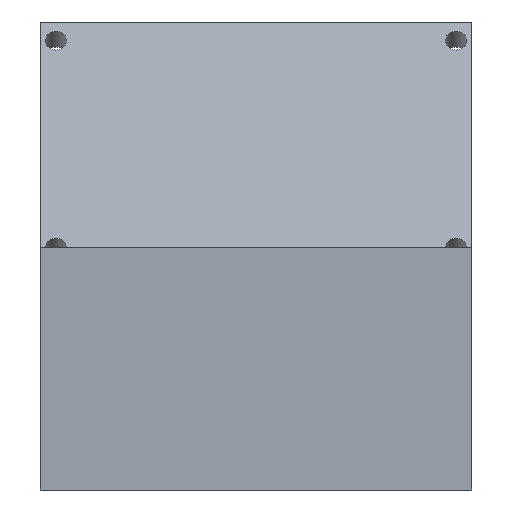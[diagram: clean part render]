
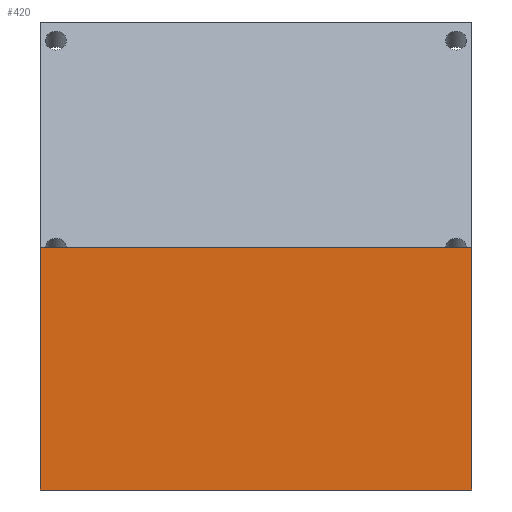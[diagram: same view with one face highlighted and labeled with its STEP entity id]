
A CAD part, left-side view. The second image highlights one B-rep face of the part: STEP entity #420.
In plain terms, the highlighted planar face has unit normal (-1, 0, 0).
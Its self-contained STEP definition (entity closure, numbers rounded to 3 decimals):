
#74=FACE_OUTER_BOUND('',#110,.T.);
#110=EDGE_LOOP('',(#381,#382,#383,#384));
#122=LINE('',#615,#160);
#133=LINE('',#659,#171);
#140=LINE('',#676,#178);
#148=LINE('',#700,#186);
#160=VECTOR('',#492,10.);
#171=VECTOR('',#537,10.);
#178=VECTOR('',#556,10.);
#186=VECTOR('',#586,10.);
#196=VERTEX_POINT('',#612);
#197=VERTEX_POINT('',#614);
#213=VERTEX_POINT('',#658);
#217=VERTEX_POINT('',#675);
#234=EDGE_CURVE('',#196,#197,#122,.T.);
#255=EDGE_CURVE('',#197,#213,#133,.T.);
#264=EDGE_CURVE('',#217,#213,#140,.T.);
#276=EDGE_CURVE('',#196,#217,#148,.T.);
#381=ORIENTED_EDGE('',*,*,#276,.T.);
#382=ORIENTED_EDGE('',*,*,#264,.T.);
#383=ORIENTED_EDGE('',*,*,#255,.F.);
#384=ORIENTED_EDGE('',*,*,#234,.F.);
#398=PLANE('',#472);
#420=ADVANCED_FACE('',(#74),#398,.T.);
#472=AXIS2_PLACEMENT_3D('',#701,#587,#588);
#492=DIRECTION('',(0.,0.,-1.));
#537=DIRECTION('',(0.,1.,0.));
#556=DIRECTION('',(0.,0.,-1.));
#586=DIRECTION('',(0.,1.,0.));
#587=DIRECTION('center_axis',(-1.,0.,0.));
#588=DIRECTION('ref_axis',(0.,0.,1.));
#612=CARTESIAN_POINT('',(0.,-1.,15.));
#614=CARTESIAN_POINT('',(0.,-1.,-31.));
#615=CARTESIAN_POINT('',(0.,-1.,0.));
#658=CARTESIAN_POINT('',(0.,81.,-31.));
#659=CARTESIAN_POINT('',(0.,0.,-31.));
#675=CARTESIAN_POINT('',(0.,81.,15.));
#676=CARTESIAN_POINT('',(0.,81.,0.));
#700=CARTESIAN_POINT('',(0.,0.,15.));
#701=CARTESIAN_POINT('Origin',(0.,0.,0.));
